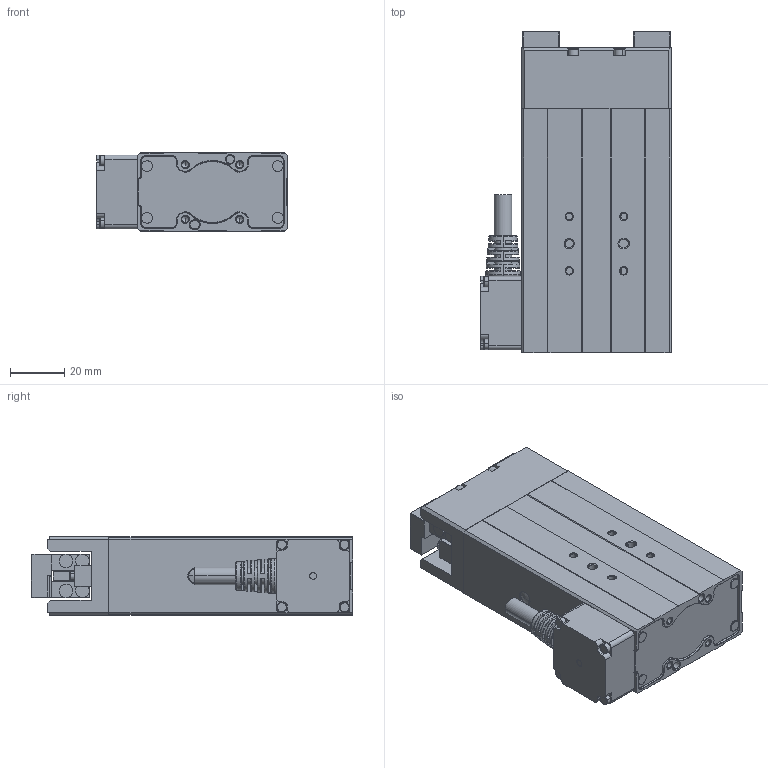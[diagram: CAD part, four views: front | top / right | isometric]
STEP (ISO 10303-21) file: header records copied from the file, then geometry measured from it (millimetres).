
FILE_DESCRIPTION (( 'STEP AP214' ), '1' );
FILE_NAME ('PGEA-【15-26-W-O】【50-26-W-O】【100-26-O】出线可旋转_3D简易模型_20250515.STEP', '2025-05-15T01:48:28', ( '' ), ( '' ), 'SwSTEP 2.0', 'SolidWorks 2020', '' );
FILE_SCHEMA (( 'AUTOMOTIVE_DESIGN' ));
Length unit declared in the file: millimetre
Products named in the file (21): PGEA-【15-26-W-O】【50-26-W-O】【100-26-O】出线可旋转_3D简易模型_20241226(2)^PGEA-【15-26-W-O】【50-26-W-O】【100-26-O】出线可旋转_3D简易模型_20250515; __________A-20241119^复件 (3) _PGEA-【15-26-W-O】【50-26-W-O】【100-26-O】出线可旋转_3D简易模型_20241226(2)_PGEA-【15-26-W-O】【50-26-W-O】【100-26-O】出线可旋转_3D简易模型_20250515; M2-4-4__-0.5__^复件 (3) _PGEA-【15-26-W-O】【50-26-W-O】【100-26-O】出线可旋转_3D简易模型_20241226(2)_PGEA-【15-26-W-O】【50-26-W-O】【100-26-O】出线可旋转_3D简易模型_20250515; ^复件 (3) _PGEA-【15-26-W-O】【50-26-W-O】【100-26-O】出线可旋转_3D简易模型_20241226(2)_PGEA-【15-26-W-O】【50-26-W-O】【100-26-O】出线可旋转_3D简易模型_20250515; M2.5x25 ____3.8____2.5________^复件 (3) _PGEA-【15-26-W-O】【50-26-W-O】【100-26-O】出线可旋转_3D简易模型_20241226(2)_PGEA-【15-26-W-O】【50-26-W-O】【100-26-O】出线可旋转_3D简易模型_20250515; PGEA-M12________^复件 (3) _PGEA-【15-26-W-O】【50-26-W-O】【100-26-O】出线可旋转_3D简易模型_20241226(2)_PGEA-【15-26-W-O】【50-26-W-O】【100-26-O】出线可旋转_3D简易模型_20250515; 复件 (2) ^复件 (3) _PGEA-【15-26-W-O】【50-26-W-O】【100-26-O】出线可旋转_3D简易模型_20241226(2)_PGEA-【15-26-W-O】【50-26-W-O】【100-26-O】出线可旋转_3D简易模型_20250515; GB_FASTENER_SCREWS_HSHCS M2X6-N 3_____GB_FASTENER_SCREWS_HSHCS M2X6-N^复件 (3) _PGEA-【15-26-W-O】【50-26-W-O】【100-26-O】出线可旋转_3D简易模型_20241226(2)_PGEA-【15-26-W-O】【50-26-W-O】【100-26-O】出线可旋转_3D简易模型_2025~; PGE50_Main cover^复件 (3) _PGEA-【15-26-W-O】【50-26-W-O】【100-26-O】出线可旋转_3D简易模型_20241226(2)_PGEA-【15-26-W-O】【50-26-W-O】【100-26-O】出线可旋转_3D简易模型_20250515; PGEA-【15-26-W-O】【50-26-W-O】【100-26-O】出线可旋转_3D简易模型_20250515; PGEA____^复件 (3) _PGEA-【15-26-W-O】【50-26-W-O】【100-26-O】出线可旋转_3D简易模型_20241226(2)_PGEA-【15-26-W-O】【50-26-W-O】【100-26-O】出线可旋转_3D简易模型_20250515; 复件 (2) ^PGEA-【15-26-W-O】【50-26-W-O】【100-26-O】出线可旋转_3D简易模型_20241226(2)_PGEA-【15-26-W-O】【50-26-W-O】【100-26-O】出线可旋转_3D简易模型_20250515; ^PGEA-【15-26-W-O】【50-26-W-O】【100-26-O】出线可旋转_3D简易模型_20241226(2)_PGEA-【15-26-W-O】【50-26-W-O】【100-26-O】出线可旋转_3D简易模型_20250515; LIGHT-PIPE^复件 (3) _PGEA-【15-26-W-O】【50-26-W-O】【100-26-O】出线可旋转_3D简易模型_20241226(2)_PGEA-【15-26-W-O】【50-26-W-O】【100-26-O】出线可旋转_3D简易模型_20250515; 复件 (3) ^PGEA-【15-26-W-O】【50-26-W-O】【100-26-O】出线可旋转_3D简易模型_20241226(2)_PGEA-【15-26-W-O】【50-26-W-O】【100-26-O】出线可旋转_3D简易模型_20250515; ____ ____ ____ M2-2-5__-0^复件 (2) _PGEA-【15-26-W-O】【50-26-W-O】【100-26-O】出线可旋转_3D简易模型_20241226(2)_PGEA-【15-26-W-O】【50-26-W-O】【100-26-O】出线可旋转_3D简易模型_20250515; ____ ____ ____ PGE-50______0^_PGEA-【15-26-W-O】【50-26-W-O】【100-26-O】出线可旋转_3D简易模型_20241226(2)_PGEA-【15-26-W-O】【50-26-W-O】【100-26-O】出线可旋转_3D简易模型_20250515; GB_FASTENER_SCREWS_HSHCS M2X16-N.._GB_FASTENER_SCREWS_HSHCS M2X16-N^复件 (3) _PGEA-【15-26-W-O】【50-26-W-O】【100-26-O】出线可旋转_3D简易模型_20241226(2)_PGEA-【15-26-W-O】【50-26-W-O】【100-26-O】出线可旋转_3D简易模型_202505~; ______2.0-4^复件 (3) _PGEA-【15-26-W-O】【50-26-W-O】【100-26-O】出线可旋转_3D简易模型_20241226(2)_PGEA-【15-26-W-O】【50-26-W-O】【100-26-O】出线可旋转_3D简易模型_20250515; ____ ____ ____ M2-2-5__-0^_PGEA-【15-26-W-O】【50-26-W-O】【100-26-O】出线可旋转_3D简易模型_20241226(2)_PGEA-【15-26-W-O】【50-26-W-O】【100-26-O】出线可旋转_3D简易模型_20250515; ____ ____ ____ PGE-50______0^复件 (2) _PGEA-【15-26-W-O】【50-26-W-O】【100-26-O】出线可旋转_3D简易模型_20241226(2)_PGEA-【15-26-W-O】【50-26-W-O】【100-26-O】出线可旋转_3D简易模型_20250515
Assembly tree (39 placements, depth 4):
  PGEA-【15-26-W-O】【50-26-W-O】【100-26-O】出线可旋转_3D简易模型_20250515
    PGEA-【15-26-W-O】【50-26-W-O】【100-26-O】出线可旋转_3D简易模型_20241226(2)^PGEA-【15-26-W-O】【50-26-W-O】【100-26-O】出线可旋转_3D简易模型_20250515
      ^PGEA-【15-26-W-O】【50-26-W-O】【100-26-O】出线可旋转_3D简易模型_20241226(2)_PGEA-【15-26-W-O】【50-26-W-O】【100-26-O】出线可旋转_3D简易模型_20250515
        ____ ____ ____ PGE-50______0^_PGEA-【15-26-W-O】【50-26-W-O】【100-26-O】出线可旋转_3D简易模型_20241226(2)_PGEA-【15-26-W-O】【50-26-W-O】【100-26-O】出线可旋转_3D简易模型_20250515
        ____ ____ ____ M2-2-5__-0^_PGEA-【15-26-W-O】【50-26-W-O】【100-26-O】出线可旋转_3D简易模型_20241226(2)_PGEA-【15-26-W-O】【50-26-W-O】【100-26-O】出线可旋转_3D简易模型_20250515  x4
      复件 (2) ^PGEA-【15-26-W-O】【50-26-W-O】【100-26-O】出线可旋转_3D简易模型_20241226(2)_PGEA-【15-26-W-O】【50-26-W-O】【100-26-O】出线可旋转_3D简易模型_20250515
        ____ ____ ____ PGE-50______0^复件 (2) _PGEA-【15-26-W-O】【50-26-W-O】【100-26-O】出线可旋转_3D简易模型_20241226(2)_PGEA-【15-26-W-O】【50-26-W-O】【100-26-O】出线可旋转_3D简易模型_20250515
        ____ ____ ____ M2-2-5__-0^复件 (2) _PGEA-【15-26-W-O】【50-26-W-O】【100-26-O】出线可旋转_3D简易模型_20241226(2)_PGEA-【15-26-W-O】【50-26-W-O】【100-26-O】出线可旋转_3D简易模型_20250515  x4
      复件 (3) ^PGEA-【15-26-W-O】【50-26-W-O】【100-26-O】出线可旋转_3D简易模型_20241226(2)_PGEA-【15-26-W-O】【50-26-W-O】【100-26-O】出线可旋转_3D简易模型_20250515
        ^复件 (3) _PGEA-【15-26-W-O】【50-26-W-O】【100-26-O】出线可旋转_3D简易模型_20241226(2)_PGEA-【15-26-W-O】【50-26-W-O】【100-26-O】出线可旋转_3D简易模型_20250515
        GB_FASTENER_SCREWS_HSHCS M2X6-N 3_____GB_FASTENER_SCREWS_HSHCS M2X6-N^复件 (3) _PGEA-【15-26-W-O】【50-26-W-O】【100-26-O】出线可旋转_3D简易模型_20241226(2)_PGEA-【15-26-W-O】【50-26-W-O】【100-26-O】出线可旋转_3D简易模型_2025~  x4
        __________A-20241119^复件 (3) _PGEA-【15-26-W-O】【50-26-W-O】【100-26-O】出线可旋转_3D简易模型_20241226(2)_PGEA-【15-26-W-O】【50-26-W-O】【100-26-O】出线可旋转_3D简易模型_20250515
        PGEA-M12________^复件 (3) _PGEA-【15-26-W-O】【50-26-W-O】【100-26-O】出线可旋转_3D简易模型_20241226(2)_PGEA-【15-26-W-O】【50-26-W-O】【100-26-O】出线可旋转_3D简易模型_20250515
        M2-4-4__-0.5__^复件 (3) _PGEA-【15-26-W-O】【50-26-W-O】【100-26-O】出线可旋转_3D简易模型_20241226(2)_PGEA-【15-26-W-O】【50-26-W-O】【100-26-O】出线可旋转_3D简易模型_20250515  x4
        M2.5x25 ____3.8____2.5________^复件 (3) _PGEA-【15-26-W-O】【50-26-W-O】【100-26-O】出线可旋转_3D简易模型_20241226(2)_PGEA-【15-26-W-O】【50-26-W-O】【100-26-O】出线可旋转_3D简易模型_20250515  x4
        GB_FASTENER_SCREWS_HSHCS M2X16-N.._GB_FASTENER_SCREWS_HSHCS M2X16-N^复件 (3) _PGEA-【15-26-W-O】【50-26-W-O】【100-26-O】出线可旋转_3D简易模型_20241226(2)_PGEA-【15-26-W-O】【50-26-W-O】【100-26-O】出线可旋转_3D简易模型_202505~  x4
        ______2.0-4^复件 (3) _PGEA-【15-26-W-O】【50-26-W-O】【100-26-O】出线可旋转_3D简易模型_20241226(2)_PGEA-【15-26-W-O】【50-26-W-O】【100-26-O】出线可旋转_3D简易模型_20250515
        LIGHT-PIPE^复件 (3) _PGEA-【15-26-W-O】【50-26-W-O】【100-26-O】出线可旋转_3D简易模型_20241226(2)_PGEA-【15-26-W-O】【50-26-W-O】【100-26-O】出线可旋转_3D简易模型_20250515
        PGEA____^复件 (3) _PGEA-【15-26-W-O】【50-26-W-O】【100-26-O】出线可旋转_3D简易模型_20241226(2)_PGEA-【15-26-W-O】【50-26-W-O】【100-26-O】出线可旋转_3D简易模型_20250515
        PGE50_Main cover^复件 (3) _PGEA-【15-26-W-O】【50-26-W-O】【100-26-O】出线可旋转_3D简易模型_20241226(2)_PGEA-【15-26-W-O】【50-26-W-O】【100-26-O】出线可旋转_3D简易模型_20250515
        复件 (2) ^复件 (3) _PGEA-【15-26-W-O】【50-26-W-O】【100-26-O】出线可旋转_3D简易模型_20241226(2)_PGEA-【15-26-W-O】【50-26-W-O】【100-26-O】出线可旋转_3D简易模型_20250515  x2
Bounding box: 70 x 118 x 29 mm (x, y, z)
Volume: 183602.4 mm3; surface area: 45745.8 mm2
Topology: 35 solids, 35 shells, 1115 faces, 2597 edges, 1599 vertices
Faces by surface type: plane 435, cylinder 350, cone 248, torus 51, bspline 29, sphere 2
Entity records: 29141 total; most frequent: CARTESIAN_POINT 6376, DIRECTION 4757, ORIENTED_EDGE 4430, EDGE_CURVE 2215, AXIS2_PLACEMENT_3D 1752, VERTEX_POINT 1381, VECTOR 1253, LINE 1253
